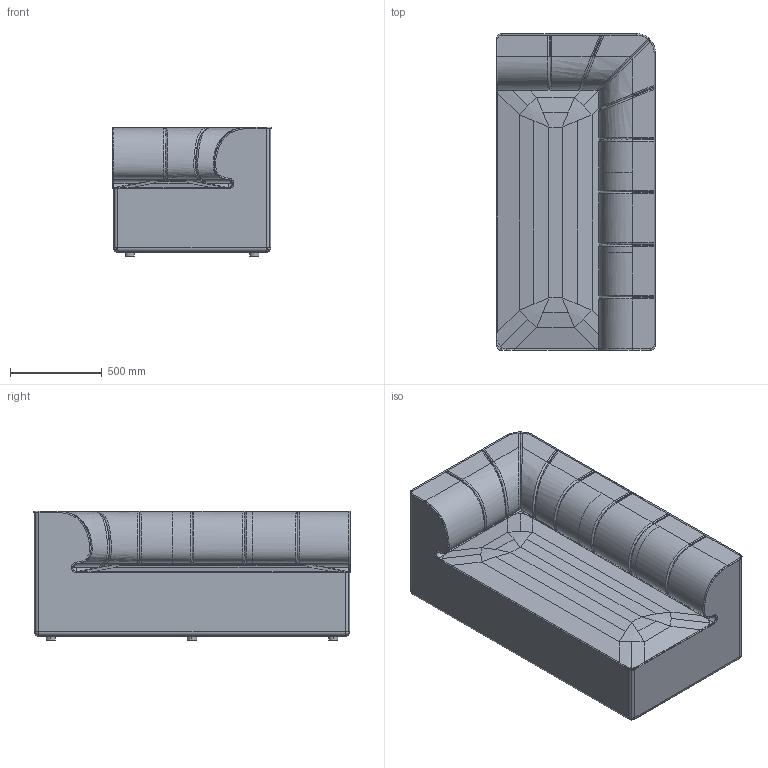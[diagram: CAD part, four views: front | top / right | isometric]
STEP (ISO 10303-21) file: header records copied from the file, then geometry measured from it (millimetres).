
FILE_DESCRIPTION (( 'STEP AP214' ), '1' );
FILE_NAME ('Eave Seamline Modular Sofa 86, Corner 172 Left.STEP', '2024-07-03T13:27:39', ( '' ), ( '' ), 'SwSTEP 2.0', 'SolidWorks 2022', '' );
FILE_SCHEMA (( 'AUTOMOTIVE_DESIGN' ));
Length unit declared in the file: millimetre
Products named in the file (1): Eave Seamline Modular Sofa 86, Corner 172 Left
Bounding box: 868 x 1728 x 709 mm (x, y, z)
Volume: 742195390.1 mm3; surface area: 6684894.5 mm2
Topology: 7 solids, 7 shells, 253 faces, 683 edges, 439 vertices
Faces by surface type: cylinder 103, plane 66, bspline 41, torus 36, sphere 7
Entity records: 16739 total; most frequent: CARTESIAN_POINT 10914, ORIENTED_EDGE 1356, DIRECTION 976, EDGE_CURVE 678, VERTEX_POINT 439, AXIS2_PLACEMENT_3D 383, B_SPLINE_CURVE_WITH_KNOTS 275, EDGE_LOOP 253
